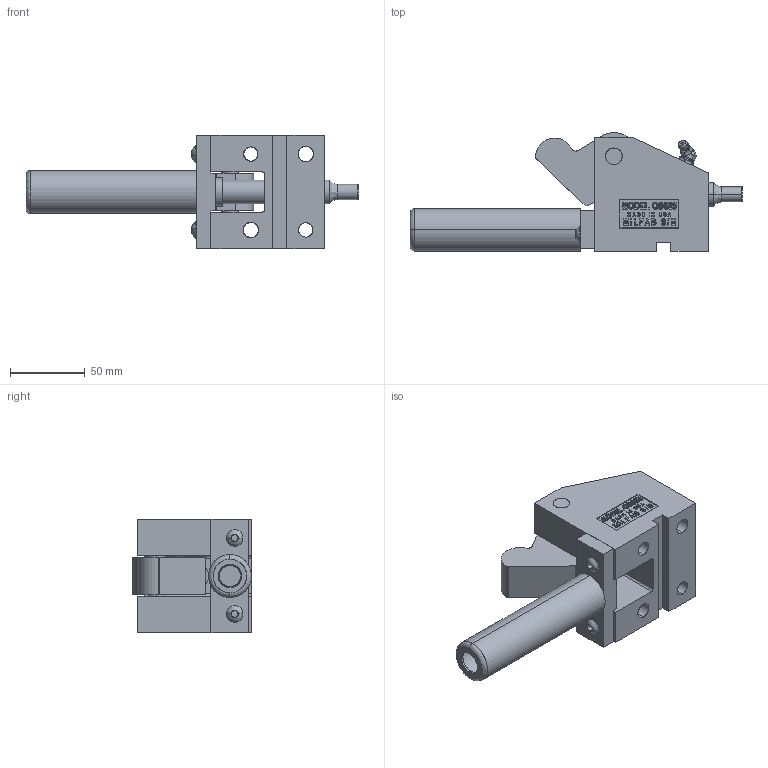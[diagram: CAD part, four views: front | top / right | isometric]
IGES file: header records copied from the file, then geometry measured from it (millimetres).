
Start section: SolidWorks IGES file using analytic representation for surfaces
Global section: file name: Y:\JIM'S INCH CAM UNITS\OS62545\OPEN\OS62545-O.IGS; native system: SolidWorks 2006 by SolidWorks Corporation; preprocessor: SolidWorks 2006 by SolidWorks Corporation; author: Jim; date: 090206.085416; units: inch
Bounding box: 222.12 x 79.37 x 76.2 mm (x, y, z)
Surface area: 94544.4 mm2 (no closed solid volume)
Topology: 0 solids, 0 shells, 590 faces, 7721 edges, 7719 vertices
Faces by surface type: bspline 470, revolution 120
